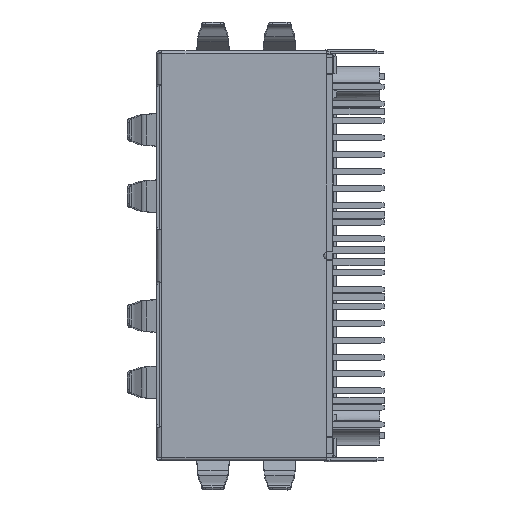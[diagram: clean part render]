
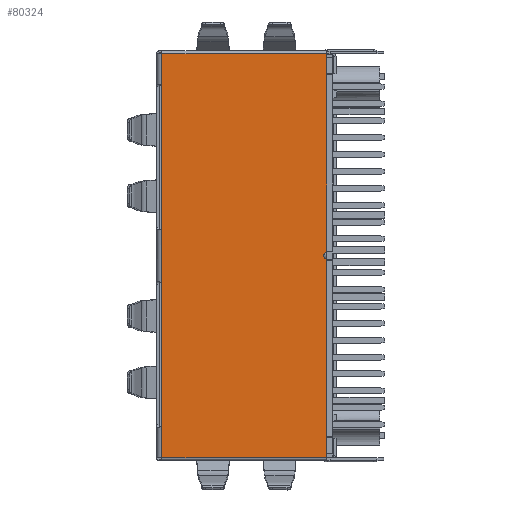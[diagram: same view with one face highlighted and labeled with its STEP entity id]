
A CAD part, top view. The second image highlights one B-rep face of the part: STEP entity #80324.
In plain terms, the highlighted planar face has unit normal (0, 0, 1).
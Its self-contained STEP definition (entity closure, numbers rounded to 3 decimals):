
#70032=CARTESIAN_POINT('',(-18.474,17.794,-0.088));
#70034=DIRECTION('',(0.,-1.,0.));
#70035=VECTOR('',#70034,4.3);
#70036=CARTESIAN_POINT('',(-18.474,17.794,-0.088));
#70037=LINE('',#70036,#70035);
#70043=DIRECTION('',(0.,-1.,0.));
#70044=VECTOR('',#70043,14.937);
#70045=CARTESIAN_POINT('',(-6.074,15.381,
-0.088));
#70046=LINE('',#70045,#70044);
#70057=DIRECTION('',(0.,-1.,0.));
#70058=VECTOR('',#70057,14.937);
#70059=CARTESIAN_POINT('',(-6.074,30.844,
-0.088));
#70060=LINE('',#70059,#70058);
#70144=DIRECTION('',(-1.,0.,0.));
#70145=VECTOR('',#70144,12.4);
#70146=CARTESIAN_POINT('',(-6.074,30.844,
-0.088));
#70147=LINE('',#70146,#70145);
#70228=DIRECTION('',(0.,-1.,0.));
#70229=VECTOR('',#70228,10.55);
#70230=CARTESIAN_POINT('',(-18.474,28.344,-0.088));
#70231=LINE('',#70230,#70229);
#70236=DIRECTION('',(0.,-1.,0.));
#70237=VECTOR('',#70236,10.55);
#70238=CARTESIAN_POINT('',(-18.474,13.494,-0.088));
#70239=LINE('',#70238,#70237);
#70402=DIRECTION('',(0.,-1.,0.));
#70403=VECTOR('',#70402,2.5);
#70404=CARTESIAN_POINT('',(-18.474,2.944,-0.088));
#70405=LINE('',#70404,#70403);
#70423=DIRECTION('',(1.,0.,0.));
#70424=VECTOR('',#70423,12.4);
#70425=CARTESIAN_POINT('',(-18.474,0.444,
-0.088));
#70426=LINE('',#70425,#70424);
#70517=CARTESIAN_POINT('',(-6.044,15.644,-0.088));
#70518=DIRECTION('',(0.,0.,-1.));
#70519=DIRECTION('',(-1.,0.,0.));
#70520=AXIS2_PLACEMENT_3D('',#70517,#70518,#70519);
#70522=CARTESIAN_POINT('',(-6.044,15.644,-0.088));
#70523=DIRECTION('',(0.,0.,-1.));
#70524=DIRECTION('',(-0.113,-0.994,0.));
#70525=AXIS2_PLACEMENT_3D('',#70522,#70523,#70524);
#70545=DIRECTION('',(0.,-1.,0.));
#70546=VECTOR('',#70545,2.5);
#70547=CARTESIAN_POINT('',(-18.474,30.844,-0.088));
#70548=LINE('',#70547,#70546);
#75599=CARTESIAN_POINT('',(-18.474,30.844,-0.088));
#75600=VERTEX_POINT('',#75599);
#75602=CARTESIAN_POINT('',(-18.474,28.344,-0.088));
#75603=VERTEX_POINT('',#75602);
#75605=VERTEX_POINT('',#70032);
#75607=CARTESIAN_POINT('',(-18.474,13.494,-0.088));
#75608=VERTEX_POINT('',#75607);
#75609=CARTESIAN_POINT('',(-6.074,30.844,
-0.088));
#75610=CARTESIAN_POINT('',(-6.074,15.906,
-0.088));
#75611=VERTEX_POINT('',#75609);
#75612=VERTEX_POINT('',#75610);
#75613=CARTESIAN_POINT('',(-6.308,15.644,-0.088));
#75614=VERTEX_POINT('',#75613);
#75615=CARTESIAN_POINT('',(-6.074,15.381,-0.088));
#75616=VERTEX_POINT('',#75615);
#75617=CARTESIAN_POINT('',(-6.074,0.444,
-0.088));
#75618=VERTEX_POINT('',#75617);
#75619=CARTESIAN_POINT('',(-18.474,0.444,
-0.088));
#75620=VERTEX_POINT('',#75619);
#75621=CARTESIAN_POINT('',(-18.474,2.944,-0.088));
#75622=VERTEX_POINT('',#75621);
#80296=CARTESIAN_POINT('',(-12.274,15.644,-0.088));
#80297=DIRECTION('',(0.,0.,1.));
#80298=DIRECTION('',(0.,-1.,0.));
#80299=AXIS2_PLACEMENT_3D('',#80296,#80297,#80298);
#80300=PLANE('',#80299);
#80302=ORIENTED_EDGE('',*,*,#80301,.T.);
#80304=ORIENTED_EDGE('',*,*,#80303,.F.);
#80306=ORIENTED_EDGE('',*,*,#80305,.F.);
#80308=ORIENTED_EDGE('',*,*,#80307,.T.);
#80310=ORIENTED_EDGE('',*,*,#80309,.F.);
#80312=ORIENTED_EDGE('',*,*,#80311,.F.);
#80314=ORIENTED_EDGE('',*,*,#80313,.F.);
#80315=ORIENTED_EDGE('',*,*,#80291,.F.);
#80317=ORIENTED_EDGE('',*,*,#80316,.F.);
#80319=ORIENTED_EDGE('',*,*,#80318,.F.);
#80321=ORIENTED_EDGE('',*,*,#80320,.F.);
#80322=EDGE_LOOP('',(#80302,#80304,#80306,#80308,#80310,#80312,#80314,#80315,
#80317,#80319,#80321));
#80323=FACE_OUTER_BOUND('',#80322,.F.);
#80324=ADVANCED_FACE('',(#80323),#80300,.T.);
#70521=CIRCLE('',#70520,0.265);
#70526=CIRCLE('',#70525,0.265);
#80291=EDGE_CURVE('',#75605,#75608,#70037,.T.);
#80301=EDGE_CURVE('',#75611,#75612,#70060,.T.);
#80303=EDGE_CURVE('',#75614,#75612,#70521,.T.);
#80305=EDGE_CURVE('',#75616,#75614,#70526,.T.);
#80307=EDGE_CURVE('',#75616,#75618,#70046,.T.);
#80309=EDGE_CURVE('',#75620,#75618,#70426,.T.);
#80311=EDGE_CURVE('',#75622,#75620,#70405,.T.);
#80313=EDGE_CURVE('',#75608,#75622,#70239,.T.);
#80316=EDGE_CURVE('',#75603,#75605,#70231,.T.);
#80318=EDGE_CURVE('',#75600,#75603,#70548,.T.);
#80320=EDGE_CURVE('',#75611,#75600,#70147,.T.);
